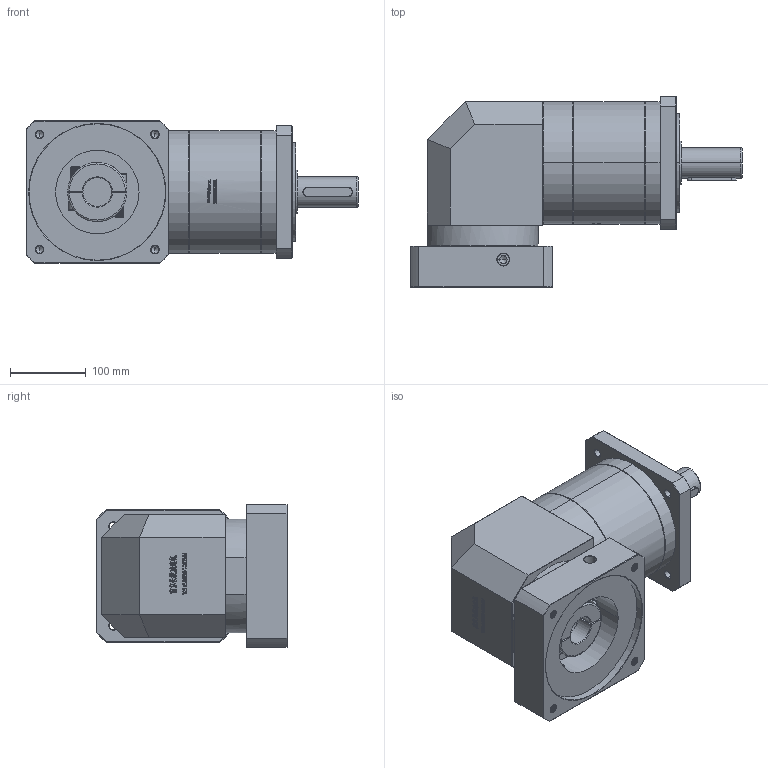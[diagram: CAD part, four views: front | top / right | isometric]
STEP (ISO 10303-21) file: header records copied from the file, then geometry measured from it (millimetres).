
FILE_DESCRIPTION (( 'STEP AP214' ), '1' );
FILE_NAME ('ZFR160A-D40-L3-38-180-215-M12.step', '2023-03-22T11:46:27', ( '' ), ( '' ), 'SwSTEP 2.0', 'SolidWorks 2016', '' );
FILE_SCHEMA (( 'AUTOMOTIVE_DESIGN' ));
Length unit declared in the file: millimetre
Products named in the file (1): ZFR160A-D40-L3-38-180-215-M12
Bounding box: 437.7 x 251.5 x 188 mm (x, y, z)
Volume: 8904486.3 mm3; surface area: 522236.9 mm2
Topology: 6 solids, 6 shells, 2506 faces, 6576 edges, 4224 vertices
Faces by surface type: plane 1273, bspline 497, cylinder 403, cone 311, torus 22
Entity records: 141915 total; most frequent: CARTESIAN_POINT 56921, ORIENTED_EDGE 13092, DIRECTION 9970, EDGE_CURVE 6546, VERTEX_POINT 4224, LINE 4150, VECTOR 4150, AXIS2_PLACEMENT_3D 2910
